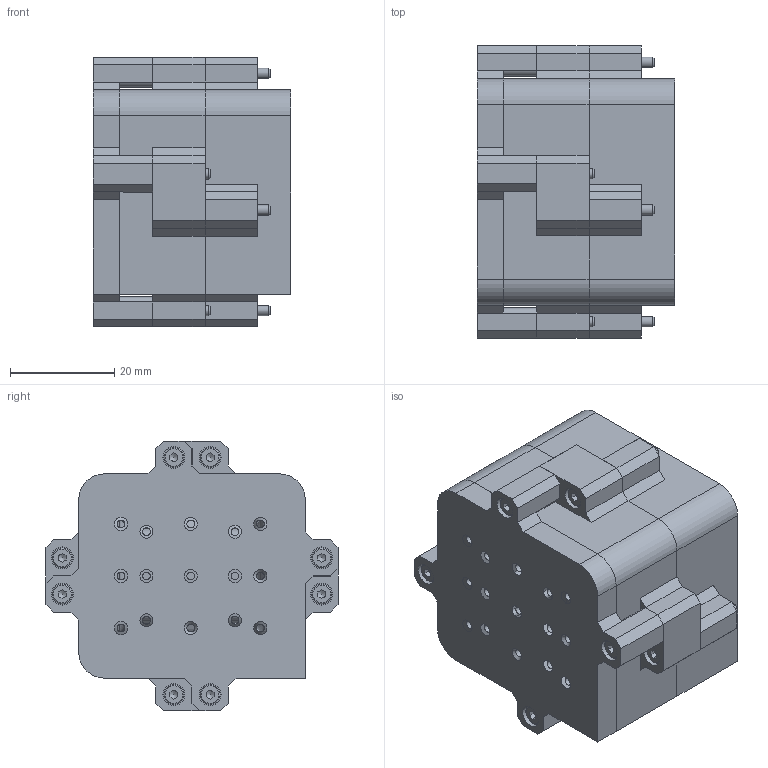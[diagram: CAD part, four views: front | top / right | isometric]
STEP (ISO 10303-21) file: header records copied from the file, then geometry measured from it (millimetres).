
FILE_DESCRIPTION(/* description */ (''),/* implementation_level */ '2;1');
FILE_NAME(/* name */ 'Mold_Assembly_with_ScrewsAndNuts.stp',/* time_stamp */ '2025-08-17T17:10:30+02:00',/* author */ ('MehdiBelhadj'),/* organization */ (''),/* preprocessor_version */ 'ST-DEVELOPER v20.1',/* originating_system */ 'Autodesk Inventor 2026',/* authorisation */ '');
FILE_SCHEMA (('AUTOMOTIVE_DESIGN { 1 0 10303 214 3 1 1 }'));
Length unit declared in the file: millimetre
Products named in the file (7): Main_Mold_Design; Core_1; lower mold; upper mold; Plug_1; ISO 4762  - M2 x 20; ISO 4032 - M2
Assembly tree (20 placements, depth 2):
  Main_Mold_Design
    Core_1
    lower mold
    upper mold
    Plug_1
    ISO 4762  - M2 x 20  x8
    ISO 4032 - M2  x8
Bounding box: 38 x 56.1 x 51.83 mm (x, y, z)
Volume: 63419.1 mm3; surface area: 30214.5 mm2
Topology: 20 solids, 20 shells, 681 faces, 1725 edges, 1117 vertices
Faces by surface type: plane 406, cylinder 144, cone 67, torus 64
Full cylindrical faces by diameter (mm): 1.5 x15, 1.567 x8, 2 x8, 2.5 x16, 3.8 x8, 4.2 x8
Entity records: 16153 total; most frequent: CARTESIAN_POINT 3070, DIRECTION 2597, ORIENTED_EDGE 2524, EDGE_CURVE 1262, AXIS2_PLACEMENT_3D 866, LINE 865, VECTOR 865, VERTEX_POINT 816
